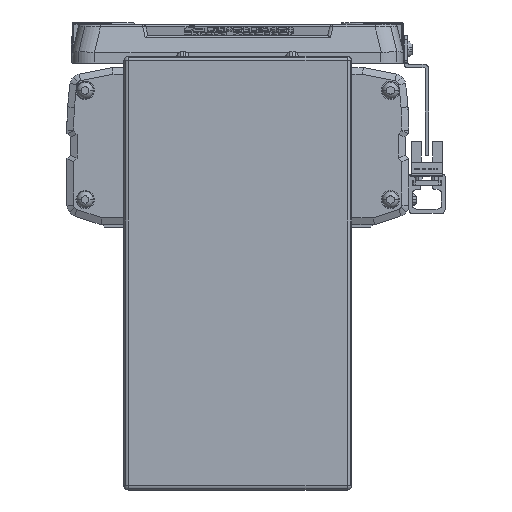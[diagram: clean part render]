
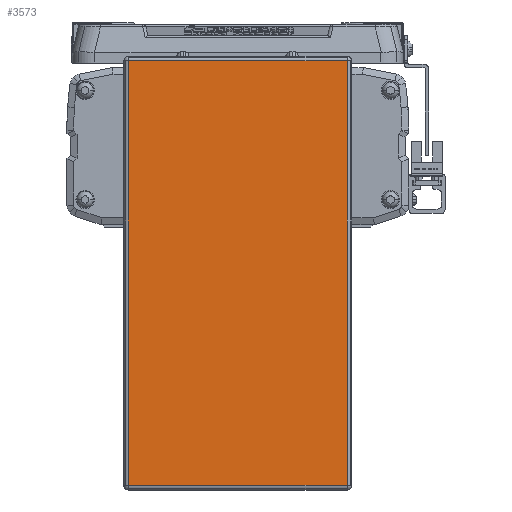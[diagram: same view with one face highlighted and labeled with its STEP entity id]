
A CAD part, left-side view. The second image highlights one B-rep face of the part: STEP entity #3573.
In plain terms, the highlighted planar face has unit normal (-1, 0, 0).
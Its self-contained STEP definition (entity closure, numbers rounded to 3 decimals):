
#3573=ADVANCED_FACE('',(#9115),#9116,.T.);
#9115=FACE_OUTER_BOUND('',#17439,.T.);
#9116=PLANE('',#17440);
#17439=EDGE_LOOP('',(#28039,#28040,#28041,#28042));
#17440=AXIS2_PLACEMENT_3D('',#28043,#28044,#28045);
#28039=ORIENTED_EDGE('',*,*,#48024,.F.);
#28040=ORIENTED_EDGE('',*,*,#49680,.F.);
#28041=ORIENTED_EDGE('',*,*,#49681,.F.);
#28042=ORIENTED_EDGE('',*,*,#49168,.F.);
#28043=CARTESIAN_POINT('',(-45.,0.,-64.2));
#28044=DIRECTION('',(-1.0,0.,0.));
#28045=DIRECTION('',(0.,1.0,0.));
#48024=EDGE_CURVE('',#56850,#56852,#56853,.T.);
#49168=EDGE_CURVE('',#56852,#58909,#58910,.T.);
#49680=EDGE_CURVE('',#59804,#56850,#59805,.T.);
#49681=EDGE_CURVE('',#58909,#59804,#59806,.T.);
#56850=VERTEX_POINT('',#69804);
#56852=VERTEX_POINT('',#69806);
#56853=LINE('',#69807,#69808);
#58909=VERTEX_POINT('',#72496);
#58910=LINE('',#72497,#72498);
#59804=VERTEX_POINT('',#73670);
#59805=LINE('',#73671,#73672);
#59806=LINE('',#73673,#73674);
#69804=CARTESIAN_POINT('',(-45.,48.,29.));
#69806=CARTESIAN_POINT('',(-45.,-48.,29.));
#69807=CARTESIAN_POINT('',(-45.,0.,29.));
#69808=VECTOR('',#87701,10.0);
#72496=CARTESIAN_POINT('',(-45.,-48.,-157.4));
#72497=CARTESIAN_POINT('',(-45.,-48.,-64.2));
#72498=VECTOR('',#89391,10.0);
#73670=CARTESIAN_POINT('',(-45.,48.,-157.4));
#73671=CARTESIAN_POINT('',(-45.,48.,-64.2));
#73672=VECTOR('',#90120,10.0);
#73673=CARTESIAN_POINT('',(-45.,0.,-157.4));
#73674=VECTOR('',#90121,10.0);
#87701=DIRECTION('',(0.0,-1.0,0.));
#89391=DIRECTION('',(0.,0.,-1.0));
#90120=DIRECTION('',(0.,0.,1.0));
#90121=DIRECTION('',(0.0,1.0,0.));
